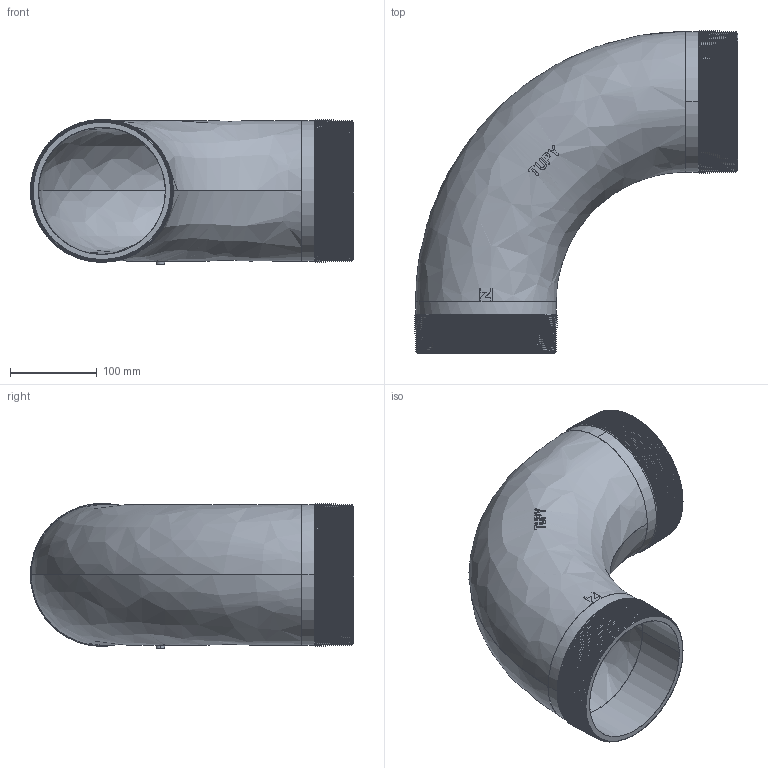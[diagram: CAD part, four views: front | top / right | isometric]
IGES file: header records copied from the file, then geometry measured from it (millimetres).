
Start section: SolidWorks IGES file using analytic representation for surfaces
Global section: file name: C:\Users\Joel Rosa\Desktop\Tubulação\12-25-OK\12-25-016.IGS; native system: SolidWorks 2011; preprocessor: SolidWorks 2011; author: Joel Rosa; date: 121207.021815; units: millimetre
Bounding box: 372.36 x 372.36 x 167.36 mm (x, y, z)
Surface area: 504058.9 mm2 (no closed solid volume)
Topology: 0 solids, 0 shells, 509 faces, 3563 edges, 3563 vertices
Faces by surface type: bspline 332, revolution 177
